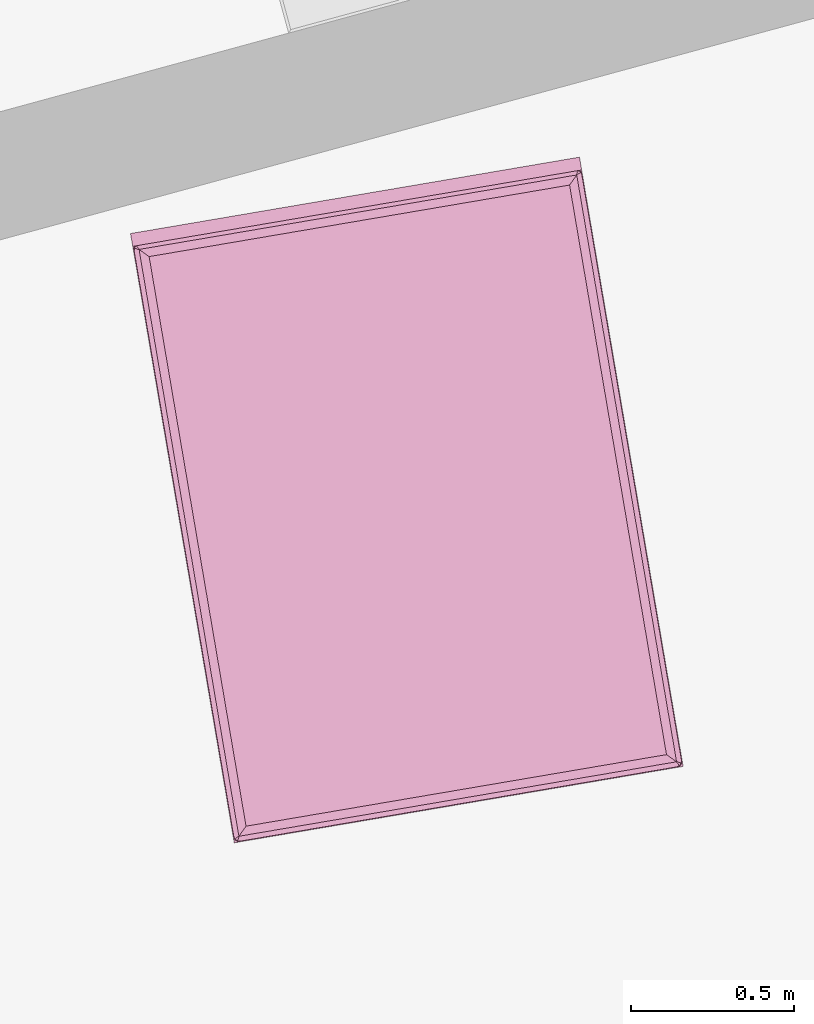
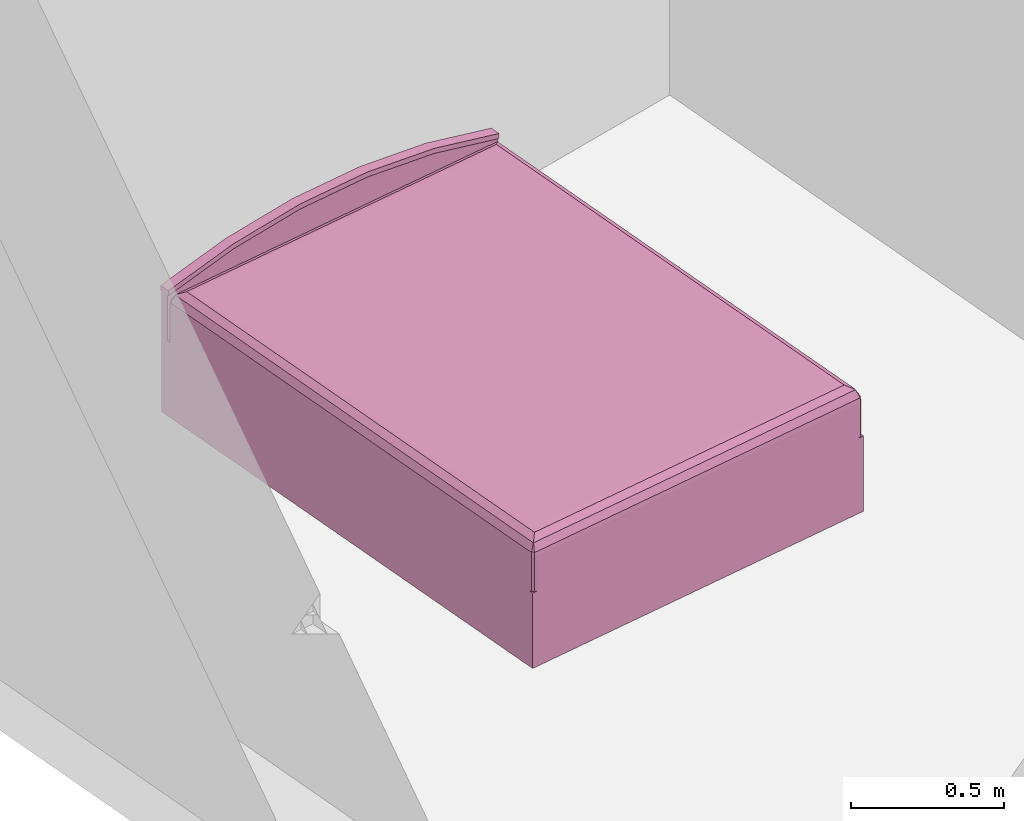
# One storey, part 165 of 195: 1 furnishing.
"""IFC2X3 building model written with IfcOpenShell, lengths in metres."""

import ifcopenshell
import ifcopenshell.guid

model = None  # the IFC model being written
_history = None  # IfcOwnerHistory: only IFC2X3 demands one
_inside = {}  # id of a spatial element -> (the spatial element, [elements in it])
_under = {}  # id of a project, library or spatial element -> (it, [spatial elements below it])
_declared = {}  # id of a project -> (the project, [libraries it declares])
_typed = {}  # id of a type object -> (the type object, [elements of that type])
_made_of = {}  # id of a material, layer set ... -> (it, [elements and type objects made of it])


def new_model(schema):
    """Start an empty IFC model of exactly this schema.

    Asked for "IFC4X3", IfcOpenShell would pick the latest addendum, in which some entities
    have other attributes; the version numbers below select the first issue.
    IFC2X3 requires an IfcOwnerHistory on every rooted entity: one is made here for all.
    """
    global model, _history
    if schema == "IFC4X3":
        model = ifcopenshell.file(schema_version=(4, 3, 0, 0))
    else:
        model = ifcopenshell.file(schema=schema)
    _inside.clear()
    _under.clear()
    _declared.clear()
    _typed.clear()
    _made_of.clear()
    _history = None
    if model.schema == "IFC2X3":
        org = make("IfcOrganization", Name="unknown")
        user = make(
            "IfcPersonAndOrganization",
            ThePerson=make("IfcPerson", FamilyName="unknown"),
            TheOrganization=org,
        )
        app = make(
            "IfcApplication",
            ApplicationDeveloper=org,
            Version="unknown",
            ApplicationFullName="unknown",
            ApplicationIdentifier="unknown",
        )
        _history = make(
            "IfcOwnerHistory",
            OwningUser=user,
            OwningApplication=app,
            ChangeAction="ADDED",
            CreationDate=0,
        )
    return model


def make(cls, **values):
    """One entity of the class cls with the attributes given. An attribute that is None is left unset."""
    return model.create_entity(
        cls, **{name: value for name, value in values.items() if value is not None}
    )


def entity(cls, *values):
    """Any entity or typed value of the class cls, its attributes in the order of the schema. None: left unset."""
    e = model.create_entity(cls)
    for i, value in enumerate(values):
        if value is not None:
            e[i] = value
    return e


def rooted(cls, **values):
    """An entity with a GlobalId (a new one), such as an element, a storey or a relation."""
    return make(cls, GlobalId=ifcopenshell.guid.new(), OwnerHistory=_history, **values)


def si_unit(unit_type, name, prefix=None):
    """IfcSIUnit, for example si_unit("LENGTHUNIT", "METRE", prefix="MILLI")."""
    return make("IfcSIUnit", UnitType=unit_type, Prefix=prefix, Name=name)


def converted_unit(unit_type, name, factor, base, dimensions=None, offset=None):
    """IfcConversionBasedUnit, such as the inch: factor (a typed value) times the base unit."""
    return make(
        "IfcConversionBasedUnit"
        if offset is None
        else "IfcConversionBasedUnitWithOffset",
        ConversionOffset=offset,
        Dimensions=None
        if dimensions is None
        else entity("IfcDimensionalExponents", *dimensions),
        UnitType=unit_type,
        Name=name,
        ConversionFactor=make(
            "IfcMeasureWithUnit", ValueComponent=factor, UnitComponent=base
        ),
    )


def derived_unit(unit_type, elements):
    """IfcDerivedUnit: a product of units, each with its exponent."""
    return make(
        "IfcDerivedUnit",
        Elements=[
            make("IfcDerivedUnitElement", Unit=unit, Exponent=power)
            for unit, power in elements
        ],
        UnitType=unit_type,
    )


def money_unit(currency):
    """IfcMonetaryUnit."""
    return make("IfcMonetaryUnit", Currency=currency)


def assignment(units):
    """IfcUnitAssignment: the units of a project."""
    return None if units is None else make("IfcUnitAssignment", Units=units)


def point(xyz):
    """IfcCartesianPoint."""
    return None if xyz is None else make("IfcCartesianPoint", Coordinates=xyz)


def direction(xyz):
    """IfcDirection."""
    return None if xyz is None else make("IfcDirection", DirectionRatios=xyz)


def frame(location, z_axis=None, x_axis=None):
    """IfcAxis2Placement3D, a coordinate frame: its origin and axes. An axis left out is left unset."""
    return make(
        "IfcAxis2Placement3D",
        Location=point(location),
        Axis=direction(z_axis),
        RefDirection=direction(x_axis),
    )


def origin_with_axes():
    """The frame at (0, 0, 0) with the z axis (0, 0, 1) and the x axis (1, 0, 0) written out."""
    return frame((0.0, 0.0, 0.0), z_axis=(0.0, 0.0, 1.0), x_axis=(1.0, 0.0, 0.0))


def place(relative_to, where):
    """IfcLocalPlacement: puts the frame where relative to a parent placement (None: the world)."""
    return make(
        "IfcLocalPlacement", PlacementRelTo=relative_to, RelativePlacement=where
    )


def context(
    kind, dimensions, precision=None, world=None, true_north=None, identifier=None
):
    """IfcGeometricRepresentationContext, for example the 3D "Model" context."""
    return make(
        "IfcGeometricRepresentationContext",
        ContextIdentifier=identifier,
        ContextType=kind,
        CoordinateSpaceDimension=dimensions,
        Precision=precision,
        WorldCoordinateSystem=world,
        TrueNorth=true_north,
    )


def subcontext(parent, identifier, kind, view, scale=None):
    """IfcGeometricRepresentationSubContext, for example "Body" below "Model"."""
    return make(
        "IfcGeometricRepresentationSubContext",
        ContextIdentifier=identifier,
        ContextType=kind,
        ParentContext=parent,
        TargetScale=scale,
        TargetView=view,
    )


def project(units=None, contexts=None):
    """IfcProject with its units and contexts."""
    return rooted(
        "IfcProject",
        Name="project",
        RepresentationContexts=contexts,
        UnitsInContext=assignment(units),
    )


def spatial(cls, under=None, at=None, **own):
    """A site, building, storey or space (cls), placed at a placement, below another one or the project."""
    s = rooted(cls, ObjectPlacement=at, **own)
    if under is not None:
        _under.setdefault(under.id(), (under, []))[1].append(s)
    return s


def faces_of(points, faces, orient=None, outer=None):
    """IfcFace entities. A face is a list of loops; a loop is a list of indices into points, from 0.

    orient and outer hold one flag for each loop. By default every Orientation is true, the
    first loop of a face is its IfcFaceOuterBound and the others are IfcFaceBound.
    """
    made = []
    for i, loops in enumerate(faces):
        bounds = []
        for j, loop in enumerate(loops):
            is_outer = j == 0 if outer is None else outer[i][j]
            bounds.append(
                make(
                    "IfcFaceOuterBound" if is_outer else "IfcFaceBound",
                    Bound=make("IfcPolyLoop", Polygon=[points[k] for k in loop]),
                    Orientation=True if orient is None else orient[i][j],
                )
            )
        made.append(make("IfcFace", Bounds=bounds))
    return made


def faceted_brep(points, faces, orient=None, outer=None, voids=None):
    """IfcFacetedBrep: a solid bounded by flat faces; with voids (closed shells), ...WithVoids."""
    shared = [point(p) for p in points]
    hull = make("IfcClosedShell", CfsFaces=faces_of(shared, faces, orient, outer))
    if voids is None:
        return make("IfcFacetedBrep", Outer=hull)
    return make(
        "IfcFacetedBrepWithVoids",
        Outer=hull,
        Voids=[
            make(cls, CfsFaces=faces_of(shared, fs, o, b)) for cls, fs, o, b in voids
        ],
    )


def shape(context_of_items, identifier, shape_type, items):
    """IfcShapeRepresentation: the items that make up one representation, for example the "Body"."""
    return make(
        "IfcShapeRepresentation",
        ContextOfItems=context_of_items,
        RepresentationIdentifier=identifier,
        RepresentationType=shape_type,
        Items=items,
    )


def source(mapping_origin, context_of_items, identifier, shape_type, items):
    """IfcRepresentationMap: a shape defined once, which mapped items show again and again."""
    return make(
        "IfcRepresentationMap",
        MappingOrigin=mapping_origin,
        MappedRepresentation=shape(context_of_items, identifier, shape_type, items),
    )


def transform(
    local_origin,
    x_axis=None,
    y_axis=None,
    z_axis=None,
    scale=None,
    scale2=None,
    scale3=None,
    uniform=True,
):
    """IfcCartesianTransformationOperator3D, or its non-uniform kind. x_axis, y_axis, z_axis: its Axis1, 2, 3."""
    if uniform:
        return make(
            "IfcCartesianTransformationOperator3D",
            Axis1=direction(x_axis),
            Axis2=direction(y_axis),
            LocalOrigin=point(local_origin),
            Scale=scale,
            Axis3=direction(z_axis),
        )
    return make(
        "IfcCartesianTransformationOperator3DnonUniform",
        Axis1=direction(x_axis),
        Axis2=direction(y_axis),
        LocalOrigin=point(local_origin),
        Scale=scale,
        Axis3=direction(z_axis),
        Scale2=scale2,
        Scale3=scale3,
    )


def mapped(mapping_source, mapping_target):
    """IfcMappedItem: shows the shape of a source again, moved by a transform."""
    return make(
        "IfcMappedItem", MappingSource=mapping_source, MappingTarget=mapping_target
    )


def made_of(thing, what):
    """Note that an element or type object is made of a material, layer set ...; save() writes the relation."""
    if what is not None:
        _made_of.setdefault(what.id(), (what, []))[1].append(thing)
    return thing


def type_object(cls, material=None, **own):
    """A type object (cls), such as IfcWallType, which elements share."""
    return made_of(rooted(cls, **own), material)


def element(
    cls,
    number,
    at=None,
    inside=None,
    cuts=None,
    type_object=None,
    material=None,
    context=None,
    identifier="Body",
    shape_type=None,
    held_by="IfcProductDefinitionShape",
    body=None,
    shapes=None,
    **own,
):
    """One element of the class cls, such as IfcWall. Its Tag is "e" and its number.

    at: its placement. inside: the storey or other place that contains it. cuts: it is an
    opening in that element (IfcRelVoidsElement). A single representation is given by context,
    identifier, shape_type and body (its items); several are given by shapes. held_by: the class
    of the entity that holds the representations. save() writes the other relations.
    """
    e = rooted(cls, Tag="e%d" % number, ObjectPlacement=at, **own)
    if body is not None:
        shapes = [shape(context, identifier, shape_type, body)]
    if shapes is not None:
        e.Representation = make(held_by, Representations=shapes)
    if inside is not None:
        _inside.setdefault(inside.id(), (inside, []))[1].append(e)
    if cuts is not None:
        rooted(
            "IfcRelVoidsElement", RelatingBuildingElement=cuts, RelatedOpeningElement=e
        )
    if type_object is not None:
        _typed.setdefault(type_object.id(), (type_object, []))[1].append(e)
    return made_of(e, material)


def aggregate(whole, parts):
    """IfcRelAggregates: a whole, such as a stair, and the parts it consists of."""
    return rooted("IfcRelAggregates", RelatingObject=whole, RelatedObjects=parts)


def save(model, path):
    """Write the relations noted so far, then the file.

    IfcRelAggregates (storeys below a building ...), IfcRelContainedInSpatialStructure (elements
    in a storey), IfcRelDefinesByType, IfcRelAssociatesMaterial and IfcRelDeclares: one each for
    every whole, place, type object, material and project.
    """
    for whole, parts in _under.values():
        aggregate(whole, parts)
    for where, things in _inside.values():
        rooted(
            "IfcRelContainedInSpatialStructure",
            RelatedElements=things,
            RelatingStructure=where,
        )
    for kind, things in _typed.values():
        rooted("IfcRelDefinesByType", RelatedObjects=things, RelatingType=kind)
    for what, things in _made_of.values():
        rooted("IfcRelAssociatesMaterial", RelatedObjects=things, RelatingMaterial=what)
    for by, libraries in _declared.values():
        rooted("IfcRelDeclares", RelatingContext=by, RelatedDefinitions=libraries)
    model.write(path)


model = new_model("IFC2X3")

# Units and contexts
model_context = context("Model", 3, precision=1e-05, world=origin_with_axes(), true_north=direction((0.0, 1.0)))
body_context = subcontext(model_context, "Body", "Model", "MODEL_VIEW")
ifc_project = project(units=[si_unit("LENGTHUNIT", "METRE"), si_unit("AREAUNIT", "SQUARE_METRE"), si_unit("VOLUMEUNIT", "CUBIC_METRE"), converted_unit("PLANEANGLEUNIT", "DEGREE", entity("IfcPlaneAngleMeasure", 0.0174532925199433), si_unit("PLANEANGLEUNIT", "RADIAN"), dimensions=[0, 0, 0, 0, 0, 0, 0]), money_unit("CHF"), converted_unit("TIMEUNIT", "Year", entity("IfcTimeMeasure", 31557600.0), si_unit("TIMEUNIT", "SECOND"), dimensions=[0, 0, 1, 0, 0, 0, 0]), si_unit("MASSUNIT", "GRAM", prefix="KILO"), si_unit("THERMODYNAMICTEMPERATUREUNIT", "DEGREE_CELSIUS"), si_unit("LUMINOUSINTENSITYUNIT", "LUMEN"), si_unit("ENERGYUNIT", "JOULE", prefix="MEGA"), derived_unit("THERMALCONDUCTANCEUNIT", [(si_unit("POWERUNIT", "WATT"), 1), (si_unit("LENGTHUNIT", "METRE"), -1), (si_unit("THERMODYNAMICTEMPERATUREUNIT", "KELVIN"), -1)]), derived_unit("SPECIFICHEATCAPACITYUNIT", [(si_unit("ENERGYUNIT", "JOULE"), 1), (si_unit("MASSUNIT", "GRAM", prefix="KILO"), -1), (si_unit("THERMODYNAMICTEMPERATUREUNIT", "KELVIN"), -1)]), derived_unit("MASSDENSITYUNIT", [(si_unit("MASSUNIT", "GRAM", prefix="KILO"), 1), (si_unit("VOLUMEUNIT", "CUBIC_METRE"), -1)])], contexts=[model_context])

# Site, building, storey
site_placement = place(None, origin_with_axes())
site = spatial("IfcSite", under=ifc_project, at=site_placement, Name="Site", CompositionType="ELEMENT")
building_placement = place(site_placement, origin_with_axes())
building = spatial("IfcBuilding", under=site, at=building_placement, Name="Bâtiment", CompositionType="ELEMENT")
storey_placement = place(building_placement, origin_with_axes())
storey = spatial("IfcBuildingStorey", under=building, at=storey_placement, Name="rdc", CompositionType="ELEMENT", Elevation=0.0)

# Furnishing
furnishing_element_type = type_object("IfcFurnishingElementType", Name="Lit double 01")
shared_shape = source(origin_with_axes(), body_context, "Body", "Brep", [
    faceted_brep([(0.0, 1.895, 0.0), (1.4, 1.895, 0.0), (1.4, 1.865, 0.0), (0.0, 1.865, 0.0), (0.0, 1.895, 0.48), (0.276362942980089, 1.895, 0.5438448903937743), (0.558179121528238, 1.895, 0.5759741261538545), (0.8418208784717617, 1.895, 0.5759741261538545), (1.123637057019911, 1.895, 0.5438448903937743), (1.4, 1.895, 0.48), (1.4, 1.895, 0.4799), (1.4, 1.865, 0.4799), (1.4, 1.865, 0.48), (1.123637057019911, 1.865, 0.5438448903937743), (0.8418208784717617, 1.865, 0.5759741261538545), (0.558179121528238, 1.865, 0.5759741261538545), (0.276362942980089, 1.865, 0.5438448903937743), (0.0, 1.865, 0.48)], [[[0, 1, 2, 3]], [[0, 4, 5, 6, 7, 8, 9, 10, 1]], [[1, 10, 11, 2]], [[3, 2, 11, 12, 13, 14, 15, 16, 17]], [[4, 0, 3, 17]], [[5, 4, 17, 16]], [[6, 5, 16, 15]], [[7, 6, 15, 14]], [[8, 7, 14, 13]], [[9, 8, 13, 12]], [[10, 9, 12, 11]]]),
    faceted_brep([(1.4, 1.9, 0.48), (1.399999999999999, 1.9, 0.4999999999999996), (1.399999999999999, 1.86, 0.4999999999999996), (1.4, 1.86, 0.48), (1.123637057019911, 1.9, 0.5438448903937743), (0.8418208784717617, 1.9, 0.5759741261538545), (0.558179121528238, 1.9, 0.5759741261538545), (0.276362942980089, 1.9, 0.5438448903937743), (0.0, 1.9, 0.48), (0.0, 1.9, 0.4999), (0.0, 1.9, 0.5), (0.276362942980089, 1.9, 0.5638448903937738), (0.5581791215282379, 1.9, 0.5959741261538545), (0.8418208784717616, 1.9, 0.5959741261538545), (1.123637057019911, 1.9, 0.5638448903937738), (1.123637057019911, 1.86, 0.5638448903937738), (0.8418208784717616, 1.86, 0.5959741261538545), (0.5581791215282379, 1.86, 0.5959741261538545), (0.276362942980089, 1.86, 0.5638448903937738), (0.0, 1.86, 0.5), (0.0, 1.86, 0.4999), (0.0, 1.86, 0.48), (0.276362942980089, 1.86, 0.5438448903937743), (0.558179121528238, 1.86, 0.5759741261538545), (0.8418208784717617, 1.86, 0.5759741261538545), (1.123637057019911, 1.86, 0.5438448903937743)], [[[0, 1, 2, 3]], [[0, 4, 5, 6, 7, 8, 9, 10, 11, 12, 13, 14, 1]], [[1, 14, 15, 2]], [[3, 2, 15, 16, 17, 18, 19, 20, 21, 22, 23, 24, 25]], [[4, 0, 3, 25]], [[5, 4, 25, 24]], [[6, 5, 24, 23]], [[7, 6, 23, 22]], [[8, 7, 22, 21]], [[9, 8, 21, 20]], [[10, 9, 20, 19]], [[11, 10, 19, 18]], [[12, 11, 18, 17]], [[13, 12, 17, 16]], [[14, 13, 16, 15]]]),
    faceted_brep([(1.4, 0.0, 0.0), (0.0, 0.0, 0.0), (0.0, 1.865, 0.0), (1.4, 1.865, 0.0), (1.4, 0.0, 0.3), (0.0, 0.0, 0.3), (0.0, 1.865, 0.3), (1.4, 1.865, 0.3)], [[[0, 1, 2, 3]], [[1, 0, 4, 5]], [[2, 1, 5, 6]], [[3, 2, 6, 7]], [[0, 3, 7, 4]], [[5, 4, 7, 6]]]),
    faceted_brep([(0.0, 0.02, 0.43), (0.0, 1.845, 0.43), (0.002679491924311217, 1.855, 0.43), (0.009999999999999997, 1.862320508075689, 0.43), (0.02, 1.865, 0.43), (1.38, 1.865, 0.43), (1.39, 1.862320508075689, 0.43), (1.397320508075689, 1.855, 0.43), (1.4, 1.845, 0.43), (1.4, 0.02, 0.43), (1.397320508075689, 0.009999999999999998, 0.43), (1.39, 0.002679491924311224, 0.43), (1.38, 0.0, 0.43), (0.01999999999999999, 0.0, 0.43), (0.009999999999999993, 0.002679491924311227, 0.43), (0.002679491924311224, 0.01, 0.43), (-3.895163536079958e-10, 0.02000000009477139, 0.44), (-3.895163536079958e-10, 1.845000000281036, 0.44), (0.002679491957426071, 1.855000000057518, 0.44), (0.0100000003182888, 1.862320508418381, 0.44), (0.02000000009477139, 1.864999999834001, 0.44), (1.380000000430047, 1.864999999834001, 0.44), (1.39000000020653, 1.862320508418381, 0.44), (1.39732050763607, 1.855000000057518, 0.44), (1.399999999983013, 1.845000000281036, 0.44), (1.399999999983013, 0.02000000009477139, 0.44), (1.39732050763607, 0.0100000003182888, 0.44), (1.39000000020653, 0.002679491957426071, 0.44), (1.380000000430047, -3.895163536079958e-10, 0.44), (0.02000000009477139, -3.895163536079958e-10, 0.44), (0.0100000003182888, 0.002679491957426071, 0.44), (0.002679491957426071, 0.0100000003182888, 0.44), (0.002044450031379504, 0.02026915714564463, 0.4555291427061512), (0.002044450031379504, 1.844730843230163, 0.4555291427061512), (0.004512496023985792, 1.853941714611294, 0.4555291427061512), (0.01105828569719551, 1.860487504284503, 0.4555291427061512), (0.02026915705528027, 1.862955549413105, 0.4555291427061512), (1.379730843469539, 1.862955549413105, 0.4555291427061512), (1.388941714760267, 1.860487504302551, 0.4555291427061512), (1.395487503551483, 1.853941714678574, 0.4555291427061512), (1.397955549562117, 1.844730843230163, 0.4555291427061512), (1.397955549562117, 0.02026915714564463, 0.4555291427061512), (1.395487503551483, 0.01105828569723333, 0.4555291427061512), (1.388941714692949, 0.004512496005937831, 0.4555291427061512), (1.379730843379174, 0.002044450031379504, 0.4555291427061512), (0.02026915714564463, 0.002044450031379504, 0.4555291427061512), (0.01105828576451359, 0.004512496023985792, 0.4555291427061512), (0.004512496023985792, 0.01105828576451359, 0.4555291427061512), (0.01757359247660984, 0.02231360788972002, 0.4824264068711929), (0.01757359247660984, 1.842686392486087, 0.4824264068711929), (0.01843554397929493, 1.845903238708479, 0.4824264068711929), (0.01909676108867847, 1.846564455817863, 0.4824264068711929), (0.02231360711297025, 1.847426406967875, 0.4824264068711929), (1.377686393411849, 1.847426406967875, 0.4824264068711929), (1.380903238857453, 1.846564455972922, 0.4824264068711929), (1.381564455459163, 1.845903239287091, 0.4824264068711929), (1.382426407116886, 1.842686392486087, 0.4824264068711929), (1.382426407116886, 0.02231360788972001, 0.4824264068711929), (1.381564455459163, 0.01909676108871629, 0.4824264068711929), (1.380903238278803, 0.01843554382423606, 0.4824264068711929), (1.377686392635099, 0.01757359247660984, 0.4824264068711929), (0.02231360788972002, 0.01757359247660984, 0.4824264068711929), (0.01909676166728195, 0.01843554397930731, 0.4824264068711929), (0.01843554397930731, 0.01909676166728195, 0.4824264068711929), (0.02303225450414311, 0.02303225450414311, 0.4855779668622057), (0.04447085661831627, 0.04447085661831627, 0.4979555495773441), (0.04447085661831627, 1.820529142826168, 0.4979555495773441), (0.02303225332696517, 1.841967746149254, 0.48557796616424), (0.02000000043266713, 1.844999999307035, 0.4834338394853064), (1.35552914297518, 1.820529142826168, 0.4979555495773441), (1.376967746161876, 1.841967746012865, 0.4855779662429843), (1.380000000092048, 1.845000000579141, 0.4834338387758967), (1.35552914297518, 0.04447085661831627, 0.4979555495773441), (1.376967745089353, 0.02303225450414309, 0.4855779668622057), (1.379999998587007, 0.02000000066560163, 0.4834338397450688), (0.02000000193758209, 0.02000000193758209, 0.4834338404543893), (0.05999999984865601, 0.05999999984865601, 0.5000000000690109), (0.05999999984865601, 1.804999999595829, 0.5000000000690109), (1.33999999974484, 1.804999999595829, 0.5000000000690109), (1.33999999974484, 0.05999999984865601, 0.5000000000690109)], [[[0, 1, 2, 3, 4, 5, 6, 7, 8, 9, 10, 11, 12, 13, 14, 15]], [[1, 0, 16, 17]], [[2, 1, 17, 18]], [[3, 2, 18, 19]], [[4, 3, 19, 20]], [[5, 4, 20, 21]], [[6, 5, 21, 22]], [[7, 6, 22, 23]], [[8, 7, 23, 24]], [[9, 8, 24, 25]], [[10, 9, 25, 26]], [[11, 10, 26, 27]], [[12, 11, 27, 28]], [[13, 12, 28, 29]], [[14, 13, 29, 30]], [[15, 14, 30, 31]], [[0, 15, 31, 16]], [[17, 16, 32, 33]], [[18, 17, 33, 34]], [[19, 18, 34, 35]], [[20, 19, 35, 36]], [[21, 20, 36, 37]], [[22, 21, 37, 38]], [[23, 22, 38, 39]], [[24, 23, 39, 40]], [[25, 24, 40, 41]], [[26, 25, 41, 42]], [[27, 26, 42, 43]], [[28, 27, 43, 44]], [[29, 28, 44, 45]], [[30, 29, 45, 46]], [[31, 30, 46, 47]], [[16, 31, 47, 32]], [[33, 32, 48, 49]], [[34, 33, 49, 50]], [[35, 34, 50, 51]], [[36, 35, 51, 52]], [[37, 36, 52, 53]], [[38, 37, 53, 54]], [[39, 38, 54, 55]], [[40, 39, 55, 56]], [[41, 40, 56, 57]], [[42, 41, 57, 58]], [[43, 42, 58, 59]], [[44, 43, 59, 60]], [[45, 44, 60, 61]], [[46, 45, 61, 62]], [[47, 46, 62, 63]], [[32, 47, 63, 48]], [[49, 48, 64, 65, 66, 67]], [[50, 49, 67, 68]], [[51, 50, 68]], [[52, 51, 68, 67]], [[53, 52, 67, 66, 69, 70]], [[54, 53, 70, 71]], [[55, 54, 71]], [[56, 55, 71, 70]], [[57, 56, 70, 69, 72, 73]], [[58, 57, 73, 74]], [[59, 58, 74]], [[60, 59, 74, 73]], [[61, 60, 73, 72, 65, 64]], [[62, 61, 64, 75]], [[63, 62, 75]], [[48, 63, 75, 64]], [[66, 65, 76, 77]], [[69, 66, 77, 78]], [[72, 69, 78, 79]], [[65, 72, 79, 76]], [[78, 77, 76, 79]]]),
    faceted_brep([(0.0, 0.02000000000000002, 0.3099999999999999), (-3.895163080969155e-10, 0.02000000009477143, 0.2999999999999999), (0.002679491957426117, 0.01000000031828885, 0.2999999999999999), (0.002679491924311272, 0.01000000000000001, 0.3099999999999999), (0.0, 1.845, 0.3099999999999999), (-3.895163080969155e-10, 1.845000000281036, 0.2999999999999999), (0.002679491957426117, 1.855000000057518, 0.2999999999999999), (0.01000000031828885, 1.862320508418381, 0.2999999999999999), (0.02000000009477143, 1.864999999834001, 0.2999999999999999), (1.380000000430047, 1.864999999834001, 0.2999999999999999), (1.39000000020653, 1.862320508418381, 0.2999999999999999), (1.39732050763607, 1.855000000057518, 0.2999999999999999), (1.399999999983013, 1.845000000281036, 0.2999999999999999), (1.399999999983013, 0.02000000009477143, 0.2999999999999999), (1.39732050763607, 0.01000000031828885, 0.2999999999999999), (1.39000000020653, 0.002679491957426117, 0.2999999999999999), (1.380000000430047, -3.895163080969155e-10, 0.2999999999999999), (0.02000000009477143, -3.895163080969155e-10, 0.2999999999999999), (0.01000000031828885, 0.002679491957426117, 0.2999999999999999), (0.01000000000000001, 0.002679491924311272, 0.3099999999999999), (0.02000000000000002, 0.0, 0.3099999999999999), (1.38, 0.0, 0.3099999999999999), (1.39, 0.002679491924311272, 0.3099999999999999), (1.397320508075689, 0.01000000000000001, 0.3099999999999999), (1.4, 0.02000000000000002, 0.3099999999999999), (1.4, 1.845, 0.3099999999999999), (1.397320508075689, 1.855, 0.3099999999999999), (1.39, 1.862320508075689, 0.3099999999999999), (1.38, 1.865, 0.3099999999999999), (0.02000000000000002, 1.865, 0.3099999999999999), (0.01000000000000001, 1.862320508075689, 0.3099999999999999), (0.002679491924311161, 1.855, 0.3099999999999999)], [[[0, 1, 2, 3]], [[1, 0, 4, 5]], [[2, 1, 5, 6, 7, 8, 9, 10, 11, 12, 13, 14, 15, 16, 17, 18]], [[3, 2, 18, 19]], [[3, 19, 20, 21, 22, 23, 24, 25, 26, 27, 28, 29, 30, 31, 4, 0]], [[5, 4, 31, 6]], [[6, 31, 30, 7]], [[7, 30, 29, 8]], [[8, 29, 28, 9]], [[27, 10, 9, 28]], [[10, 27, 26, 11]], [[11, 26, 25, 12]], [[24, 13, 12, 25]], [[23, 14, 13, 24]], [[22, 15, 14, 23]], [[21, 16, 15, 22]], [[20, 17, 16, 21]], [[18, 17, 20, 19]]]),
    faceted_brep([(0.0, 0.02, 0.3099999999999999), (0.002679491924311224, 0.01, 0.3099999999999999), (0.002679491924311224, 0.01, 0.4299999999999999), (0.0, 0.02, 0.4299999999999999), (0.0, 1.845, 0.3099999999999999), (0.002679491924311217, 1.855, 0.3099999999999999), (0.009999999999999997, 1.862320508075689, 0.3099999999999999), (0.02, 1.865, 0.3099999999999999), (1.38, 1.865, 0.3099999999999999), (1.39, 1.862320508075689, 0.3099999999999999), (1.397320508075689, 1.855, 0.3099999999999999), (1.4, 1.845, 0.3099999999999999), (1.4, 0.02, 0.3099999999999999), (1.397320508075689, 0.009999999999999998, 0.3099999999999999), (1.39, 0.002679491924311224, 0.3099999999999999), (1.38, 0.0, 0.3099999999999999), (0.01999999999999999, 0.0, 0.3099999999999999), (0.009999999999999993, 0.002679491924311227, 0.3099999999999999), (0.009999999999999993, 0.002679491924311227, 0.4299999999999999), (0.01999999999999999, 0.0, 0.4299999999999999), (1.38, 0.0, 0.4299999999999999), (1.39, 0.002679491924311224, 0.4299999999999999), (1.397320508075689, 0.009999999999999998, 0.4299999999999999), (1.4, 0.02, 0.4299999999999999), (1.4, 1.845, 0.4299999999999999), (1.397320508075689, 1.855, 0.4299999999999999), (1.39, 1.862320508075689, 0.4299999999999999), (1.38, 1.865, 0.4299999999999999), (0.02, 1.865, 0.4299999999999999), (0.009999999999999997, 1.862320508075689, 0.4299999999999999), (0.002679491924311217, 1.855, 0.4299999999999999), (0.0, 1.845, 0.4299999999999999)], [[[0, 1, 2, 3]], [[0, 4, 5, 6, 7, 8, 9, 10, 11, 12, 13, 14, 15, 16, 17, 1]], [[1, 17, 18, 2]], [[3, 2, 18, 19, 20, 21, 22, 23, 24, 25, 26, 27, 28, 29, 30, 31]], [[4, 0, 3, 31]], [[5, 4, 31, 30]], [[6, 5, 30, 29]], [[7, 6, 29, 28]], [[8, 7, 28, 27]], [[9, 8, 27, 26]], [[10, 9, 26, 25]], [[11, 10, 25, 24]], [[12, 11, 24, 23]], [[13, 12, 23, 22]], [[14, 13, 22, 21]], [[15, 14, 21, 20]], [[16, 15, 20, 19]], [[17, 16, 19, 18]]]),
])
furnishing_placement = place(storey_placement, frame((9581.501453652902, -1024.637789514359, 57.7), z_axis=(0.0, 0.0, 1.0), x_axis=(0.9858290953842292, 0.1677527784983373, 0.0)))
element("IfcFurnishingElement", 1, at=furnishing_placement, inside=storey, type_object=furnishing_element_type, Name="Obj.-002", context=body_context, shape_type="MappedRepresentation", body=[
    mapped(shared_shape, transform((0.0, 0.0, 0.0))),
])

save(model, "model.ifc")
